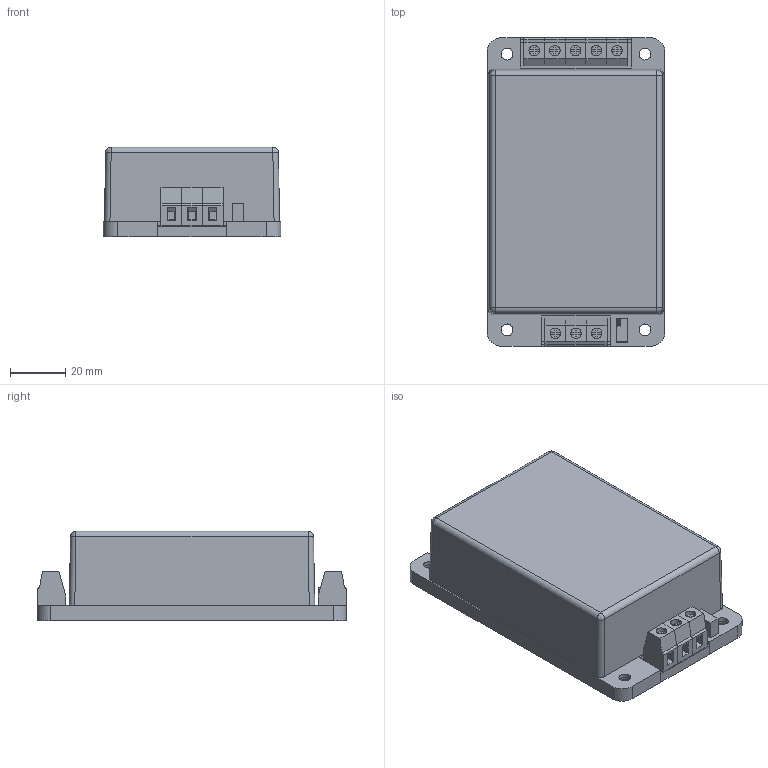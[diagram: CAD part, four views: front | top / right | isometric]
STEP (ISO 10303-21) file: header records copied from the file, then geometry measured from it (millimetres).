
FILE_DESCRIPTION (( 'STEP AP203' ), '1' );
FILE_NAME ('MSC60-A2.STEP', '2019-04-08T06:54:38', ( '' ), ( '' ), 'SwSTEP 2.0', 'SolidWorks 2016', '' );
FILE_SCHEMA (( 'CONFIG_CONTROL_DESIGN' ));
Length unit declared in the file: millimetre
Products named in the file (1): MSC60-A2
Bounding box: 64.5 x 111.9 x 32.5 mm (x, y, z)
Volume: 186740.4 mm3; surface area: 59049.4 mm2
Topology: 15 solids, 15 shells, 680 faces, 1733 edges, 1137 vertices
Faces by surface type: plane 483, cylinder 126, bspline 53, cone 18
Entity records: 20702 total; most frequent: CARTESIAN_POINT 4254, ORIENTED_EDGE 3454, DIRECTION 3145, EDGE_CURVE 1727, LINE 1361, VECTOR 1361, VERTEX_POINT 1137, AXIS2_PLACEMENT_3D 892
